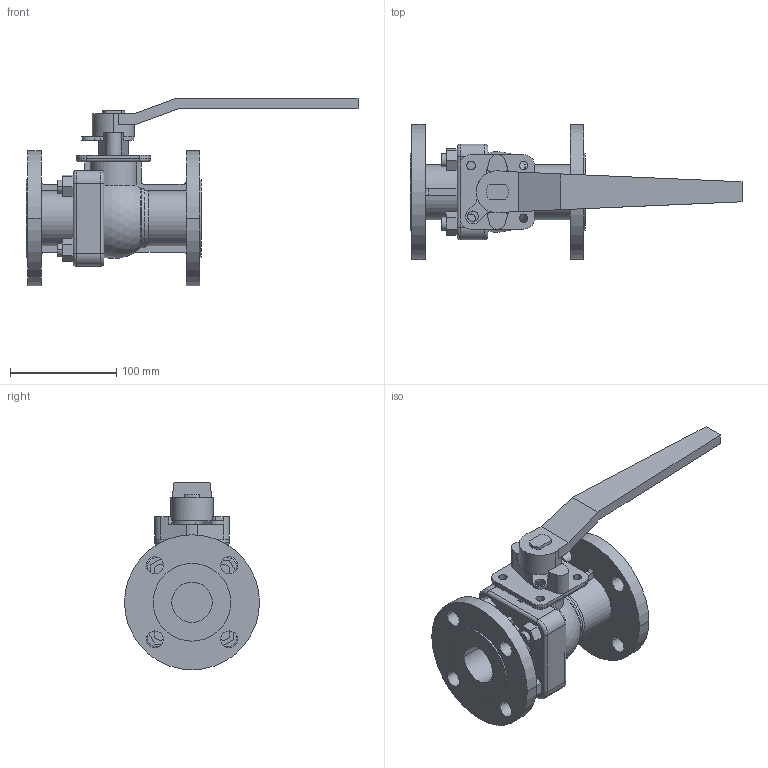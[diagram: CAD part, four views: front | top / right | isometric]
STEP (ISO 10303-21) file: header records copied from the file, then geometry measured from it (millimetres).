
FILE_DESCRIPTION( (''), '2;1');
FILE_NAME ('PC2091.16192.BLV-2SF ANSI150lb 40A_6166.stp','2026-05-28T09:08:15',(''),(''),'spGate 21.9.4 (****-****-****-****)','','');
FILE_SCHEMA (('AUTOMOTIVE_DESIGN'));
Length unit declared in the file: millimetre
Products named in the file (2): Assembly; BLV-2SFA 40A
Assembly tree (1 placements, depth 2):
  Assembly
    BLV-2SFA 40A
Bounding box: 312.2 x 127 x 176.5 mm (x, y, z)
Volume: 879694.3 mm3; surface area: 153260.4 mm2
Topology: 1 solids, 1 shells, 217 faces, 567 edges, 367 vertices
Faces by surface type: plane 100, cylinder 100, bspline 16, sphere 1
Entity records: 11751 total; most frequent: CARTESIAN_POINT 1763, DIRECTION 1152, ORIENTED_EDGE 1134, COLOUR_RGB 785, PRESENTATION_STYLE_ASSIGNMENT 785, STYLED_ITEM 785, EDGE_CURVE 567, DRAUGHTING_PRE_DEFINED_CURVE_FONT 567
